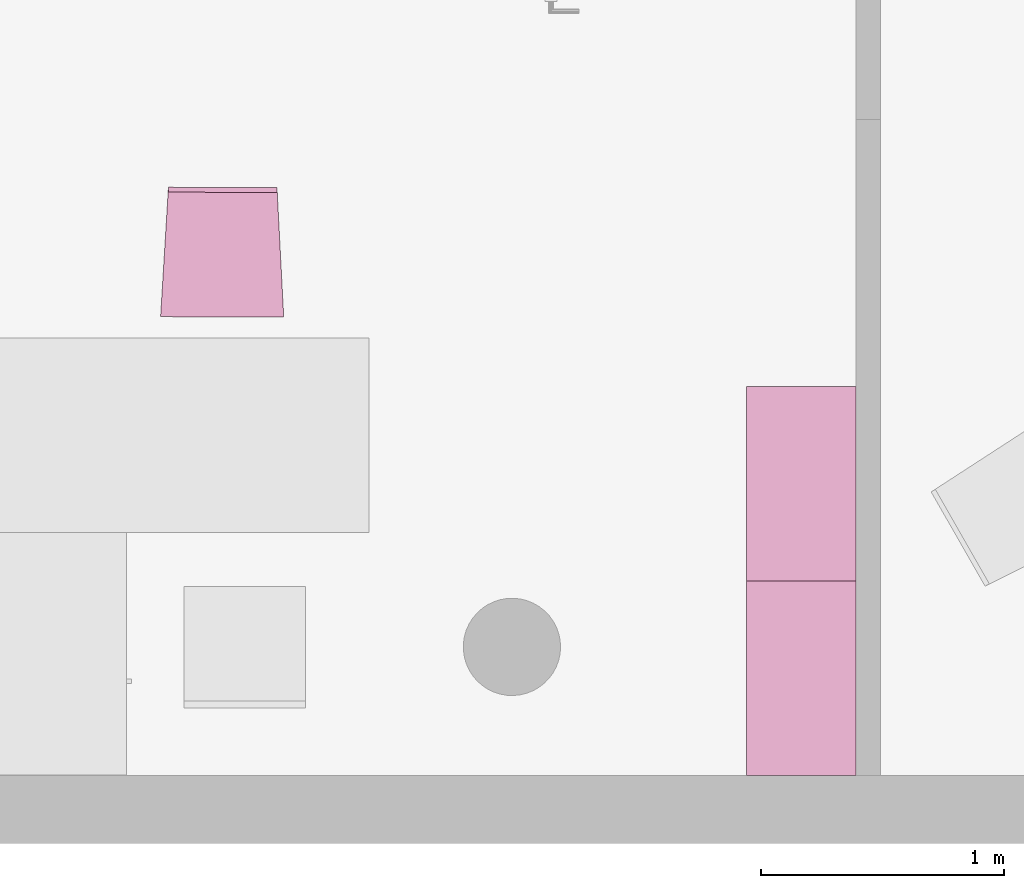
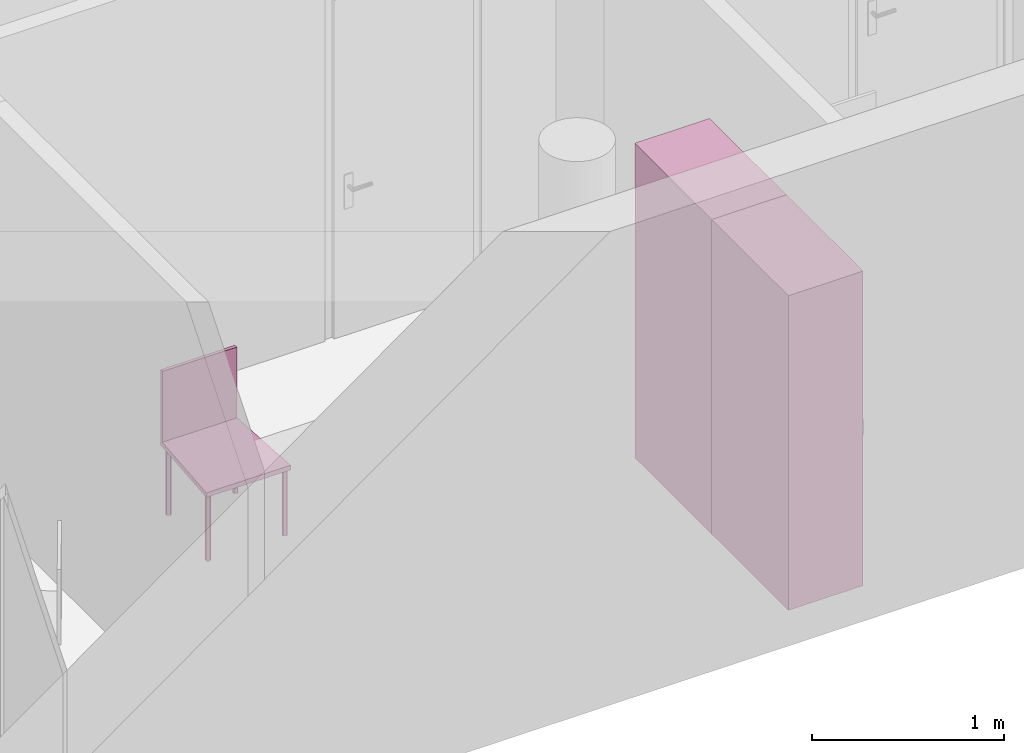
"""IFC4 building model written with IfcOpenShell, lengths in metres."""

import ifcopenshell
import ifcopenshell.guid

model = None  # the IFC model being written
_history = None  # IfcOwnerHistory: only IFC2X3 demands one
_inside = {}  # id of a spatial element -> (the spatial element, [elements in it])
_under = {}  # id of a project, library or spatial element -> (it, [spatial elements below it])
_declared = {}  # id of a project -> (the project, [libraries it declares])
_typed = {}  # id of a type object -> (the type object, [elements of that type])
_made_of = {}  # id of a material, layer set ... -> (it, [elements and type objects made of it])


def new_model(schema):
    """Start an empty IFC model of exactly this schema.

    Asked for "IFC4X3", IfcOpenShell would pick the latest addendum, in which some entities
    have other attributes; the version numbers below select the first issue.
    IFC2X3 requires an IfcOwnerHistory on every rooted entity: one is made here for all.
    """
    global model, _history
    if schema == "IFC4X3":
        model = ifcopenshell.file(schema_version=(4, 3, 0, 0))
    else:
        model = ifcopenshell.file(schema=schema)
    _inside.clear()
    _under.clear()
    _declared.clear()
    _typed.clear()
    _made_of.clear()
    _history = None
    if model.schema == "IFC2X3":
        org = make("IfcOrganization", Name="unknown")
        user = make(
            "IfcPersonAndOrganization",
            ThePerson=make("IfcPerson", FamilyName="unknown"),
            TheOrganization=org,
        )
        app = make(
            "IfcApplication",
            ApplicationDeveloper=org,
            Version="unknown",
            ApplicationFullName="unknown",
            ApplicationIdentifier="unknown",
        )
        _history = make(
            "IfcOwnerHistory",
            OwningUser=user,
            OwningApplication=app,
            ChangeAction="ADDED",
            CreationDate=0,
        )
    return model


def make(cls, **values):
    """One entity of the class cls with the attributes given. An attribute that is None is left unset."""
    return model.create_entity(
        cls, **{name: value for name, value in values.items() if value is not None}
    )


def entity(cls, *values):
    """Any entity or typed value of the class cls, its attributes in the order of the schema. None: left unset."""
    e = model.create_entity(cls)
    for i, value in enumerate(values):
        if value is not None:
            e[i] = value
    return e


def rooted(cls, **values):
    """An entity with a GlobalId (a new one), such as an element, a storey or a relation."""
    return make(cls, GlobalId=ifcopenshell.guid.new(), OwnerHistory=_history, **values)


def si_unit(unit_type, name, prefix=None):
    """IfcSIUnit, for example si_unit("LENGTHUNIT", "METRE", prefix="MILLI")."""
    return make("IfcSIUnit", UnitType=unit_type, Prefix=prefix, Name=name)


def converted_unit(unit_type, name, factor, base, dimensions=None, offset=None):
    """IfcConversionBasedUnit, such as the inch: factor (a typed value) times the base unit."""
    return make(
        "IfcConversionBasedUnit"
        if offset is None
        else "IfcConversionBasedUnitWithOffset",
        ConversionOffset=offset,
        Dimensions=None
        if dimensions is None
        else entity("IfcDimensionalExponents", *dimensions),
        UnitType=unit_type,
        Name=name,
        ConversionFactor=make(
            "IfcMeasureWithUnit", ValueComponent=factor, UnitComponent=base
        ),
    )


def derived_unit(unit_type, elements):
    """IfcDerivedUnit: a product of units, each with its exponent."""
    return make(
        "IfcDerivedUnit",
        Elements=[
            make("IfcDerivedUnitElement", Unit=unit, Exponent=power)
            for unit, power in elements
        ],
        UnitType=unit_type,
    )


def assignment(units):
    """IfcUnitAssignment: the units of a project."""
    return None if units is None else make("IfcUnitAssignment", Units=units)


def point(xyz):
    """IfcCartesianPoint."""
    return None if xyz is None else make("IfcCartesianPoint", Coordinates=xyz)


def direction(xyz):
    """IfcDirection."""
    return None if xyz is None else make("IfcDirection", DirectionRatios=xyz)


def frame(location, z_axis=None, x_axis=None):
    """IfcAxis2Placement3D, a coordinate frame: its origin and axes. An axis left out is left unset."""
    return make(
        "IfcAxis2Placement3D",
        Location=point(location),
        Axis=direction(z_axis),
        RefDirection=direction(x_axis),
    )


def origin():
    """The frame at (0, 0, 0) with its axes left unset."""
    return frame((0.0, 0.0, 0.0))


def place(relative_to, where):
    """IfcLocalPlacement: puts the frame where relative to a parent placement (None: the world)."""
    return make(
        "IfcLocalPlacement", PlacementRelTo=relative_to, RelativePlacement=where
    )


def context(
    kind, dimensions, precision=None, world=None, true_north=None, identifier=None
):
    """IfcGeometricRepresentationContext, for example the 3D "Model" context."""
    return make(
        "IfcGeometricRepresentationContext",
        ContextIdentifier=identifier,
        ContextType=kind,
        CoordinateSpaceDimension=dimensions,
        Precision=precision,
        WorldCoordinateSystem=world,
        TrueNorth=true_north,
    )


def subcontext(parent, identifier, kind, view, scale=None):
    """IfcGeometricRepresentationSubContext, for example "Body" below "Model"."""
    return make(
        "IfcGeometricRepresentationSubContext",
        ContextIdentifier=identifier,
        ContextType=kind,
        ParentContext=parent,
        TargetScale=scale,
        TargetView=view,
    )


def project(units=None, contexts=None):
    """IfcProject with its units and contexts."""
    return rooted(
        "IfcProject",
        Name="project",
        RepresentationContexts=contexts,
        UnitsInContext=assignment(units),
    )


def spatial(cls, under=None, at=None, **own):
    """A site, building, storey or space (cls), placed at a placement, below another one or the project."""
    s = rooted(cls, ObjectPlacement=at, **own)
    if under is not None:
        _under.setdefault(under.id(), (under, []))[1].append(s)
    return s


def faces_of(points, faces, orient=None, outer=None):
    """IfcFace entities. A face is a list of loops; a loop is a list of indices into points, from 0.

    orient and outer hold one flag for each loop. By default every Orientation is true, the
    first loop of a face is its IfcFaceOuterBound and the others are IfcFaceBound.
    """
    made = []
    for i, loops in enumerate(faces):
        bounds = []
        for j, loop in enumerate(loops):
            is_outer = j == 0 if outer is None else outer[i][j]
            bounds.append(
                make(
                    "IfcFaceOuterBound" if is_outer else "IfcFaceBound",
                    Bound=make("IfcPolyLoop", Polygon=[points[k] for k in loop]),
                    Orientation=True if orient is None else orient[i][j],
                )
            )
        made.append(make("IfcFace", Bounds=bounds))
    return made


def faceted_brep(points, faces, orient=None, outer=None, voids=None):
    """IfcFacetedBrep: a solid bounded by flat faces; with voids (closed shells), ...WithVoids."""
    shared = [point(p) for p in points]
    hull = make("IfcClosedShell", CfsFaces=faces_of(shared, faces, orient, outer))
    if voids is None:
        return make("IfcFacetedBrep", Outer=hull)
    return make(
        "IfcFacetedBrepWithVoids",
        Outer=hull,
        Voids=[
            make(cls, CfsFaces=faces_of(shared, fs, o, b)) for cls, fs, o, b in voids
        ],
    )


def shape(context_of_items, identifier, shape_type, items):
    """IfcShapeRepresentation: the items that make up one representation, for example the "Body"."""
    return make(
        "IfcShapeRepresentation",
        ContextOfItems=context_of_items,
        RepresentationIdentifier=identifier,
        RepresentationType=shape_type,
        Items=items,
    )


def made_of(thing, what):
    """Note that an element or type object is made of a material, layer set ...; save() writes the relation."""
    if what is not None:
        _made_of.setdefault(what.id(), (what, []))[1].append(thing)
    return thing


def element(
    cls,
    number,
    at=None,
    inside=None,
    cuts=None,
    type_object=None,
    material=None,
    context=None,
    identifier="Body",
    shape_type=None,
    held_by="IfcProductDefinitionShape",
    body=None,
    shapes=None,
    **own,
):
    """One element of the class cls, such as IfcWall. Its Tag is "e" and its number.

    at: its placement. inside: the storey or other place that contains it. cuts: it is an
    opening in that element (IfcRelVoidsElement). A single representation is given by context,
    identifier, shape_type and body (its items); several are given by shapes. held_by: the class
    of the entity that holds the representations. save() writes the other relations.
    """
    e = rooted(cls, Tag="e%d" % number, ObjectPlacement=at, **own)
    if body is not None:
        shapes = [shape(context, identifier, shape_type, body)]
    if shapes is not None:
        e.Representation = make(held_by, Representations=shapes)
    if inside is not None:
        _inside.setdefault(inside.id(), (inside, []))[1].append(e)
    if cuts is not None:
        rooted(
            "IfcRelVoidsElement", RelatingBuildingElement=cuts, RelatedOpeningElement=e
        )
    if type_object is not None:
        _typed.setdefault(type_object.id(), (type_object, []))[1].append(e)
    return made_of(e, material)


def aggregate(whole, parts):
    """IfcRelAggregates: a whole, such as a stair, and the parts it consists of."""
    return rooted("IfcRelAggregates", RelatingObject=whole, RelatedObjects=parts)


def save(model, path):
    """Write the relations noted so far, then the file.

    IfcRelAggregates (storeys below a building ...), IfcRelContainedInSpatialStructure (elements
    in a storey), IfcRelDefinesByType, IfcRelAssociatesMaterial and IfcRelDeclares: one each for
    every whole, place, type object, material and project.
    """
    for whole, parts in _under.values():
        aggregate(whole, parts)
    for where, things in _inside.values():
        rooted(
            "IfcRelContainedInSpatialStructure",
            RelatedElements=things,
            RelatingStructure=where,
        )
    for kind, things in _typed.values():
        rooted("IfcRelDefinesByType", RelatedObjects=things, RelatingType=kind)
    for what, things in _made_of.values():
        rooted("IfcRelAssociatesMaterial", RelatedObjects=things, RelatingMaterial=what)
    for by, libraries in _declared.values():
        rooted("IfcRelDeclares", RelatingContext=by, RelatedDefinitions=libraries)
    model.write(path)


model = new_model("IFC4")

# Units and contexts
model_context = context("Model", 3, precision=1e-05, world=origin())
body_context = subcontext(model_context, "Body", "Model", "MODEL_VIEW")
ifc_project = project(units=[si_unit("LENGTHUNIT", "METRE"), si_unit("AREAUNIT", "SQUARE_METRE"), si_unit("VOLUMEUNIT", "CUBIC_METRE"), si_unit("MASSUNIT", "GRAM", prefix="KILO"), converted_unit("PLANEANGLEUNIT", "DEGREE", entity("IfcPlaneAngleMeasure", 0.0174532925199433), si_unit("PLANEANGLEUNIT", "RADIAN"), dimensions=[0, 0, 0, 0, 0, 0, 0]), derived_unit("THERMALTRANSMITTANCEUNIT", [(si_unit("POWERUNIT", "WATT"), 1), (si_unit("THERMODYNAMICTEMPERATUREUNIT", "KELVIN"), -1), (si_unit("LENGTHUNIT", "METRE"), -2)]), derived_unit("VOLUMETRICFLOWRATEUNIT", [(si_unit("LENGTHUNIT", "METRE"), 3), (converted_unit("TIMEUNIT", "hour", entity("IfcTimeMeasure", 3600.0), si_unit("TIMEUNIT", "SECOND"), dimensions=[0, 0, 1, 0, 0, 0, 0]), -1), (si_unit("LENGTHUNIT", "METRE"), -1)])], contexts=[model_context])

# Building, storeys
building_placement = place(None, origin())
building = spatial("IfcBuilding", under=ifc_project, at=building_placement, Name="HABITATGE PLURIFAMILIAR", CompositionType="ELEMENT")
storey_1_placement = place(building_placement, frame((0.0, 0.0, 9.26)))
storey_1 = spatial("IfcBuildingStorey", under=building, at=storey_1_placement, Name="PLANTA SEGONA", CompositionType="ELEMENT", Elevation=9.26)
storey_2_placement = place(storey_1_placement, frame((0.0, 0.0, 6.25)))
storey_2 = spatial("IfcBuildingStorey", under=storey_1, at=storey_2_placement, Name="NOU", CompositionType="PARTIAL")

# Furniture
furniture_1_placement = place(storey_2_placement, frame((411.699312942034, 13.1206121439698, -6.3499999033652)))
element("IfcFurniture", 1, at=furniture_1_placement, inside=storey_2, Name="Armai 80x45_P2", context=body_context, shape_type="Brep", body=[
    faceted_brep([(0.430000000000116, 0.78, 1.98), (0.430000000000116, 0.78, 0.02), (0.450000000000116, 0.78, 0.02), (0.450000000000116, 0.78, 1.98), (0.430000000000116, 0.0, 0.02), (0.450000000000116, 0.0, 0.02), (0.430000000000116, 0.0, 1.98), (0.450000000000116, 0.0, 1.98)], [[[0, 1, 2, 3]], [[1, 4, 5, 2]], [[4, 6, 7, 5]], [[6, 0, 3, 7]], [[0, 6, 4, 1]], [[3, 2, 5, 7]]], orient=[[False], [False], [False], [False], [False], [False]]),
    faceted_brep([(0.450000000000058, 0.8, 1.98), (0.450000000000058, 0.8, 0.02), (0.450000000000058, 0.78, 0.02), (0.450000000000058, 0.78, 1.98), (0.0, 0.8, 0.02), (0.0, 0.78, 0.02), (0.0, 0.8, 1.98), (0.0, 0.78, 1.98)], [[[0, 1, 2, 3]], [[1, 4, 5, 2]], [[4, 6, 7, 5]], [[6, 0, 3, 7]], [[0, 6, 4, 1]], [[3, 2, 5, 7]]], orient=[[False], [False], [False], [False], [False], [False]]),
    faceted_brep([(0.450000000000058, 0.0, 0.02), (0.450000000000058, 0.8, 0.02), (0.450000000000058, 0.8, 0.0), (0.450000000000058, 0.0, 0.0), (0.0, 0.8, 0.02), (0.0, 0.8, 0.0), (0.0, 0.0, 0.02), (0.0, 0.0, 0.0)], [[[0, 1, 2, 3]], [[1, 4, 5, 2]], [[4, 6, 7, 5]], [[6, 0, 3, 7]], [[0, 6, 4, 1]], [[3, 2, 5, 7]]], orient=[[False], [False], [False], [False], [False], [False]]),
    faceted_brep([(0.450000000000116, 0.0, 2.0), (0.450000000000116, 0.8, 2.0), (0.450000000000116, 0.8, 1.98), (0.450000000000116, 0.0, 1.98), (0.0, 0.8, 2.0), (0.0, 0.8, 1.98), (0.0, 0.0, 2.0), (0.0, 0.0, 1.98)], [[[0, 1, 2, 3]], [[1, 4, 5, 2]], [[4, 6, 7, 5]], [[6, 0, 3, 7]], [[0, 6, 4, 1]], [[3, 2, 5, 7]]], orient=[[False], [False], [False], [False], [False], [False]]),
    faceted_brep([(0.450000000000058, 0.02, 1.98), (0.450000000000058, 0.02, 0.02), (0.450000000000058, 0.0, 0.02), (0.450000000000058, 0.0, 1.98), (0.0, 0.02, 0.02), (0.0, 0.0, 0.02), (0.0, 0.02, 1.98), (0.0, 0.0, 1.98)], [[[0, 1, 2, 3]], [[1, 4, 5, 2]], [[4, 6, 7, 5]], [[6, 0, 3, 7]], [[0, 6, 4, 1]], [[3, 2, 5, 7]]], orient=[[False], [False], [False], [False], [False], [False]]),
    faceted_brep([(0.0, 0.78, 1.98), (0.0, 0.78, 0.02), (0.0200000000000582, 0.78, 0.02), (0.0200000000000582, 0.78, 1.98), (0.0, 0.02, 0.02), (0.0200000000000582, 0.02, 0.02), (0.0, 0.02, 1.98), (0.0200000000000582, 0.02, 1.98)], [[[0, 1, 2, 3]], [[1, 4, 5, 2]], [[4, 6, 7, 5]], [[6, 0, 3, 7]], [[0, 6, 4, 1]], [[3, 2, 5, 7]]], orient=[[False], [False], [False], [False], [False], [False]]),
    faceted_brep([(0.430000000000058, 0.0, 1.98), (0.430000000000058, 0.0, 0.02), (0.450000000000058, 0.0, 0.02), (0.450000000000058, 0.0, 1.98), (0.430000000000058, 0.02, 0.02), (0.450000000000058, 0.02, 0.02), (0.430000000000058, 0.02, 1.98), (0.450000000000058, 0.02, 1.98)], [[[0, 1, 2, 3]], [[1, 4, 5, 2]], [[4, 6, 7, 5]], [[6, 0, 3, 7]], [[0, 6, 4, 1]], [[3, 2, 5, 7]]], orient=[[False], [False], [False], [False], [False], [False]]),
    faceted_brep([(0.450000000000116, 0.07, 1.01806481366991), (0.450000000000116, 0.07, 0.918064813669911), (0.480000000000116, 0.07, 0.918064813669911), (0.480000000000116, 0.07, 1.01806481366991), (0.450000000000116, 0.05, 0.918064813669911), (0.480000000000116, 0.05, 0.918064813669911), (0.450000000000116, 0.05, 1.01806481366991), (0.480000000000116, 0.05, 1.01806481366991)], [[[0, 1, 2, 3]], [[1, 4, 5, 2]], [[4, 6, 7, 5]], [[6, 0, 3, 7]], [[0, 6, 4, 1]], [[3, 2, 5, 7]]], orient=[[False], [False], [False], [False], [False], [False]]),
])
furniture_2_placement = place(storey_2_placement, frame((411.699312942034, 13.9206811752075, -6.3499999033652)))
element("IfcFurniture", 2, at=furniture_2_placement, inside=storey_2, Name="Armai 80x45_P2", context=body_context, shape_type="Brep", body=[
    faceted_brep([(0.430000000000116, 0.78, 1.98), (0.430000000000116, 0.78, 0.02), (0.450000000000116, 0.78, 0.02), (0.450000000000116, 0.78, 1.98), (0.430000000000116, 0.0, 0.02), (0.450000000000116, 0.0, 0.02), (0.430000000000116, 0.0, 1.98), (0.450000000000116, 0.0, 1.98)], [[[0, 1, 2, 3]], [[1, 4, 5, 2]], [[4, 6, 7, 5]], [[6, 0, 3, 7]], [[0, 6, 4, 1]], [[3, 2, 5, 7]]], orient=[[False], [False], [False], [False], [False], [False]]),
    faceted_brep([(0.450000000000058, 0.8, 1.98), (0.450000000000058, 0.8, 0.02), (0.450000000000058, 0.78, 0.02), (0.450000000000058, 0.78, 1.98), (0.0, 0.8, 0.02), (0.0, 0.78, 0.02), (0.0, 0.8, 1.98), (0.0, 0.78, 1.98)], [[[0, 1, 2, 3]], [[1, 4, 5, 2]], [[4, 6, 7, 5]], [[6, 0, 3, 7]], [[0, 6, 4, 1]], [[3, 2, 5, 7]]], orient=[[False], [False], [False], [False], [False], [False]]),
    faceted_brep([(0.450000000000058, 0.0, 0.02), (0.450000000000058, 0.8, 0.02), (0.450000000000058, 0.8, 0.0), (0.450000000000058, 0.0, 0.0), (0.0, 0.8, 0.02), (0.0, 0.8, 0.0), (0.0, 0.0, 0.02), (0.0, 0.0, 0.0)], [[[0, 1, 2, 3]], [[1, 4, 5, 2]], [[4, 6, 7, 5]], [[6, 0, 3, 7]], [[0, 6, 4, 1]], [[3, 2, 5, 7]]], orient=[[False], [False], [False], [False], [False], [False]]),
    faceted_brep([(0.450000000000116, 0.0, 2.0), (0.450000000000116, 0.8, 2.0), (0.450000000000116, 0.8, 1.98), (0.450000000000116, 0.0, 1.98), (0.0, 0.8, 2.0), (0.0, 0.8, 1.98), (0.0, 0.0, 2.0), (0.0, 0.0, 1.98)], [[[0, 1, 2, 3]], [[1, 4, 5, 2]], [[4, 6, 7, 5]], [[6, 0, 3, 7]], [[0, 6, 4, 1]], [[3, 2, 5, 7]]], orient=[[False], [False], [False], [False], [False], [False]]),
    faceted_brep([(0.450000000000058, 0.02, 1.98), (0.450000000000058, 0.02, 0.02), (0.450000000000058, 0.0, 0.02), (0.450000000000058, 0.0, 1.98), (0.0, 0.02, 0.02), (0.0, 0.0, 0.02), (0.0, 0.02, 1.98), (0.0, 0.0, 1.98)], [[[0, 1, 2, 3]], [[1, 4, 5, 2]], [[4, 6, 7, 5]], [[6, 0, 3, 7]], [[0, 6, 4, 1]], [[3, 2, 5, 7]]], orient=[[False], [False], [False], [False], [False], [False]]),
    faceted_brep([(0.0, 0.78, 1.98), (0.0, 0.78, 0.02), (0.0200000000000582, 0.78, 0.02), (0.0200000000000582, 0.78, 1.98), (0.0, 0.02, 0.02), (0.0200000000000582, 0.02, 0.02), (0.0, 0.02, 1.98), (0.0200000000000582, 0.02, 1.98)], [[[0, 1, 2, 3]], [[1, 4, 5, 2]], [[4, 6, 7, 5]], [[6, 0, 3, 7]], [[0, 6, 4, 1]], [[3, 2, 5, 7]]], orient=[[False], [False], [False], [False], [False], [False]]),
    faceted_brep([(0.430000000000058, 0.0, 1.98), (0.430000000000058, 0.0, 0.02), (0.450000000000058, 0.0, 0.02), (0.450000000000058, 0.0, 1.98), (0.430000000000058, 0.02, 0.02), (0.450000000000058, 0.02, 0.02), (0.430000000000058, 0.02, 1.98), (0.450000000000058, 0.02, 1.98)], [[[0, 1, 2, 3]], [[1, 4, 5, 2]], [[4, 6, 7, 5]], [[6, 0, 3, 7]], [[0, 6, 4, 1]], [[3, 2, 5, 7]]], orient=[[False], [False], [False], [False], [False], [False]]),
    faceted_brep([(0.450000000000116, 0.07, 1.01806481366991), (0.450000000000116, 0.07, 0.918064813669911), (0.480000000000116, 0.07, 0.918064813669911), (0.480000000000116, 0.07, 1.01806481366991), (0.450000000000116, 0.05, 0.918064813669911), (0.480000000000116, 0.05, 0.918064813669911), (0.450000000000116, 0.05, 1.01806481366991), (0.480000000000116, 0.05, 1.01806481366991)], [[[0, 1, 2, 3]], [[1, 4, 5, 2]], [[4, 6, 7, 5]], [[6, 0, 3, 7]], [[0, 6, 4, 1]], [[3, 2, 5, 7]]], orient=[[False], [False], [False], [False], [False], [False]]),
])
furniture_3_placement = place(storey_2_placement, frame((409.288697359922, 15.0053169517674, -6.3514820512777)))
element("IfcFurniture", 3, at=furniture_3_placement, inside=storey_2, Name="Cadira confident_P2", context=body_context, shape_type="Brep", body=[
    faceted_brep([(0.0392724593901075, 0.0271272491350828, 0.0), (0.0390567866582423, 0.0297221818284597, 0.0), (0.038393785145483, 0.0322402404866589, 0.0), (0.0373035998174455, 0.0346049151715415, 0.0), (0.0358193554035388, 0.0367443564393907, 0.0), (0.0339861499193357, 0.0385935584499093, 0.0), (0.0318596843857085, 0.0400963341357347, 0.0), (0.0295045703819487, 0.0412070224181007, 0.0), (0.0269923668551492, 0.0418918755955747, 0.0), (0.024399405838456, 0.0421300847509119, 0.0), (0.0218044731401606, 0.041914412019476, 0.0), (0.0192864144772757, 0.04125141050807, 0.0), (0.0169217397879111, 0.040161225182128, 0.0), (0.0147822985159, 0.0386769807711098, 0.0), (0.0129330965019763, 0.0368437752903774, 0.0), (0.0114303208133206, 0.0347173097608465, 0.0), (0.0103196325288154, 0.0323621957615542, 0.0), (0.00963477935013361, 0.0298499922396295, 0.0), (0.00939657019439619, 0.0272570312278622, 0.0), (0.00961224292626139, 0.0246620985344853, 0.0), (0.0102752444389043, 0.0221440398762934, 0.0), (0.0113654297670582, 0.0197793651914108, 0.0), (0.0128496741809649, 0.017639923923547, 0.0), (0.014682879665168, 0.0157907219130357, 0.0), (0.0168093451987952, 0.0142879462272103, 0.0), (0.019164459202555, 0.0131772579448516, 0.0), (0.0216766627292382, 0.0124924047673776, 0.0), (0.0242696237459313, 0.0122541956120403, 0.0), (0.0268645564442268, 0.0124698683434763, 0.0), (0.0293826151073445, 0.0131328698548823, 0.0), (0.0317472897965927, 0.014223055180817, 0.0), (0.0338867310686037, 0.0157072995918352, 0.0), (0.0357359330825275, 0.0175405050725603, 0.0), (0.0372387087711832, 0.0196669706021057, 0.0), (0.0383493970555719, 0.0220220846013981, 0.0), (0.0390342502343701, 0.0245342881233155, 0.0), (0.0392724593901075, 0.0271272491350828, 0.448281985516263), (0.0390342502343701, 0.0245342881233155, 0.448281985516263), (0.0383493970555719, 0.0220220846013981, 0.448281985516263), (0.0372387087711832, 0.0196669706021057, 0.448281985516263), (0.0357359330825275, 0.0175405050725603, 0.448281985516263), (0.0338867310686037, 0.0157072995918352, 0.448281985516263), (0.0317472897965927, 0.014223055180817, 0.448281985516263), (0.0293826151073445, 0.0131328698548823, 0.448281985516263), (0.0268645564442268, 0.0124698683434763, 0.448281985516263), (0.0242696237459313, 0.0122541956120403, 0.448281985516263), (0.0216766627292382, 0.0124924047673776, 0.448281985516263), (0.019164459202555, 0.0131772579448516, 0.448281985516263), (0.0168093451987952, 0.0142879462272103, 0.448281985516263), (0.014682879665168, 0.0157907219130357, 0.448281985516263), (0.0128496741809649, 0.017639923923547, 0.448281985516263), (0.0113654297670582, 0.0197793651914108, 0.448281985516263), (0.0102752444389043, 0.0221440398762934, 0.448281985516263), (0.00961224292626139, 0.0246620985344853, 0.448281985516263), (0.00939657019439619, 0.0272570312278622, 0.448281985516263), (0.00963477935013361, 0.0298499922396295, 0.448281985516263), (0.0103196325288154, 0.0323621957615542, 0.448281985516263), (0.0114303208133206, 0.0347173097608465, 0.448281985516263), (0.0129330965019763, 0.0368437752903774, 0.448281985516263), (0.0147822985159, 0.0386769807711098, 0.448281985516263), (0.0169217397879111, 0.040161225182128, 0.448281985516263), (0.0192864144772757, 0.04125141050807, 0.448281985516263), (0.0218044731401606, 0.041914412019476, 0.448281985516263), (0.024399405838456, 0.0421300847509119, 0.448281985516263), (0.0269923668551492, 0.0418918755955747, 0.448281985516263), (0.0295045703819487, 0.0412070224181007, 0.448281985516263), (0.0318596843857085, 0.0400963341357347, 0.448281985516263), (0.0339861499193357, 0.0385935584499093, 0.448281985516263), (0.0358193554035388, 0.0367443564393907, 0.448281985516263), (0.0373035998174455, 0.0346049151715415, 0.448281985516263), (0.038393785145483, 0.0322402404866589, 0.448281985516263), (0.0390567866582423, 0.0297221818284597, 0.448281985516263)], [[[0, 1, 2, 3, 4, 5, 6, 7, 8, 9, 10, 11, 12, 13, 14, 15, 16, 17, 18, 19, 20, 21, 22, 23, 24, 25, 26, 27, 28, 29, 30, 31, 32, 33, 34, 35]], [[36, 37, 38, 39, 40, 41, 42, 43, 44, 45, 46, 47, 48, 49, 50, 51, 52, 53, 54, 55, 56, 57, 58, 59, 60, 61, 62, 63, 64, 65, 66, 67, 68, 69, 70, 71]], [[1, 0, 36, 71]], [[2, 1, 71, 70]], [[3, 2, 70, 69]], [[4, 3, 69, 68]], [[5, 4, 68, 67]], [[6, 5, 67, 66]], [[7, 6, 66, 65]], [[8, 7, 65, 64]], [[9, 8, 64, 63]], [[10, 9, 63, 62]], [[11, 10, 62, 61]], [[12, 11, 61, 60]], [[13, 12, 60, 59]], [[14, 13, 59, 58]], [[15, 14, 58, 57]], [[16, 15, 57, 56]], [[17, 16, 56, 55]], [[18, 17, 55, 54]], [[19, 18, 54, 53]], [[20, 19, 53, 52]], [[21, 20, 52, 51]], [[22, 21, 51, 50]], [[23, 22, 50, 49]], [[24, 23, 49, 48]], [[25, 24, 48, 47]], [[26, 25, 47, 46]], [[27, 26, 46, 45]], [[28, 27, 45, 44]], [[29, 28, 44, 43]], [[30, 29, 43, 42]], [[31, 30, 42, 41]], [[32, 31, 41, 40]], [[33, 32, 40, 39]], [[34, 33, 39, 38]], [[35, 34, 38, 37]], [[0, 35, 37, 36]]], orient=[[False], [False], [False], [False], [False], [False], [False], [False], [False], [False], [False], [False], [False], [False], [False], [False], [False], [False], [False], [False], [False], [False], [False], [False], [False], [False], [False], [False], [False], [False], [False], [False], [False], [False], [False], [False], [False], [False]]),
    faceted_brep([(0.0689188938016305, 0.489409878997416, 0.0), (0.0687032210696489, 0.492004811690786, 0.0), (0.0680402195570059, 0.494522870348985, 0.0), (0.0669500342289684, 0.496887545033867, 0.0), (0.0654657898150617, 0.499026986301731, 0.0), (0.0636325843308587, 0.50087618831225, 0.0), (0.0615061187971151, 0.502378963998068, 0.0), (0.0591510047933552, 0.503489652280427, 0.0), (0.0566388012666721, 0.504174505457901, 0.0), (0.0540458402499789, 0.504412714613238, 0.0), (0.0514509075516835, 0.504197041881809, 0.0), (0.0489328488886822, 0.503534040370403, 0.0), (0.0465681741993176, 0.502443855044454, 0.0), (0.044428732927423, 0.500959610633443, 0.0), (0.0425795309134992, 0.499126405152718, 0.0), (0.0410767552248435, 0.496999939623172, 0.0), (0.0399660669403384, 0.49464482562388, 0.0), (0.0392812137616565, 0.492132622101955, 0.0), (0.0390430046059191, 0.489539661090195, 0.0), (0.0392586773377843, 0.486944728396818, 0.0), (0.0399216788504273, 0.484426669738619, 0.0), (0.0410118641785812, 0.482061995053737, 0.0), (0.0424961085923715, 0.479922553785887, 0.0), (0.0443293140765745, 0.478073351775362, 0.0), (0.0464557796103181, 0.476570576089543, 0.0), (0.0488108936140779, 0.475459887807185, 0.0), (0.0513230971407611, 0.474775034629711, 0.0), (0.0539160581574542, 0.474536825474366, 0.0), (0.0565109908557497, 0.474752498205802, 0.0), (0.059029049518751, 0.475415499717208, 0.0), (0.0613937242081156, 0.476505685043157, 0.0), (0.0635331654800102, 0.477989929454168, 0.0), (0.065382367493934, 0.479823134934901, 0.0), (0.0668851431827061, 0.481949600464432, 0.0), (0.0679958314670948, 0.484304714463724, 0.0), (0.0686806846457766, 0.486816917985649, 0.0), (0.0689188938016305, 0.489409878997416, 0.448281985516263), (0.0686806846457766, 0.486816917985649, 0.448281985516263), (0.0679958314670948, 0.484304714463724, 0.448281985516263), (0.0668851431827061, 0.481949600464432, 0.448281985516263), (0.065382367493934, 0.479823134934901, 0.448281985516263), (0.0635331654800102, 0.477989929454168, 0.448281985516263), (0.0613937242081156, 0.476505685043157, 0.448281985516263), (0.059029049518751, 0.475415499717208, 0.448281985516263), (0.0565109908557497, 0.474752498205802, 0.448281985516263), (0.0539160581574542, 0.474536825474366, 0.448281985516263), (0.0513230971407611, 0.474775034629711, 0.448281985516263), (0.0488108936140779, 0.475459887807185, 0.448281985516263), (0.0464557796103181, 0.476570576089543, 0.448281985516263), (0.0443293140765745, 0.478073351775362, 0.448281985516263), (0.0424961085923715, 0.479922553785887, 0.448281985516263), (0.0410118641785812, 0.482061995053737, 0.448281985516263), (0.0399216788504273, 0.484426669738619, 0.448281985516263), (0.0392586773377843, 0.486944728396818, 0.448281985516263), (0.0390430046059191, 0.489539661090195, 0.448281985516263), (0.0392812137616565, 0.492132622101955, 0.448281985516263), (0.0399660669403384, 0.49464482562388, 0.448281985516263), (0.0410767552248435, 0.496999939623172, 0.448281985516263), (0.0425795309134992, 0.499126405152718, 0.448281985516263), (0.044428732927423, 0.500959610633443, 0.448281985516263), (0.0465681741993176, 0.502443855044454, 0.448281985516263), (0.0489328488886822, 0.503534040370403, 0.448281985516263), (0.0514509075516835, 0.504197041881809, 0.448281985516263), (0.0540458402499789, 0.504412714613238, 0.448281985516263), (0.0566388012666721, 0.504174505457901, 0.448281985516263), (0.0591510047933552, 0.503489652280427, 0.448281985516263), (0.0615061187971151, 0.502378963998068, 0.448281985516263), (0.0636325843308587, 0.50087618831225, 0.448281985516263), (0.0654657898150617, 0.499026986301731, 0.448281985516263), (0.0669500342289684, 0.496887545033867, 0.448281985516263), (0.0680402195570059, 0.494522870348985, 0.448281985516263), (0.0687032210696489, 0.492004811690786, 0.448281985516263)], [[[0, 1, 2, 3, 4, 5, 6, 7, 8, 9, 10, 11, 12, 13, 14, 15, 16, 17, 18, 19, 20, 21, 22, 23, 24, 25, 26, 27, 28, 29, 30, 31, 32, 33, 34, 35]], [[36, 37, 38, 39, 40, 41, 42, 43, 44, 45, 46, 47, 48, 49, 50, 51, 52, 53, 54, 55, 56, 57, 58, 59, 60, 61, 62, 63, 64, 65, 66, 67, 68, 69, 70, 71]], [[1, 0, 36, 71]], [[2, 1, 71, 70]], [[3, 2, 70, 69]], [[4, 3, 69, 68]], [[5, 4, 68, 67]], [[6, 5, 67, 66]], [[7, 6, 66, 65]], [[8, 7, 65, 64]], [[9, 8, 64, 63]], [[10, 9, 63, 62]], [[11, 10, 62, 61]], [[12, 11, 61, 60]], [[13, 12, 60, 59]], [[14, 13, 59, 58]], [[15, 14, 58, 57]], [[16, 15, 57, 56]], [[17, 16, 56, 55]], [[18, 17, 55, 54]], [[19, 18, 54, 53]], [[20, 19, 53, 52]], [[21, 20, 52, 51]], [[22, 21, 51, 50]], [[23, 22, 50, 49]], [[24, 23, 49, 48]], [[25, 24, 48, 47]], [[26, 25, 47, 46]], [[27, 26, 46, 45]], [[28, 27, 45, 44]], [[29, 28, 44, 43]], [[30, 29, 43, 42]], [[31, 30, 42, 41]], [[32, 31, 41, 40]], [[33, 32, 40, 39]], [[34, 33, 39, 38]], [[35, 34, 38, 37]], [[0, 35, 37, 36]]], orient=[[False], [False], [False], [False], [False], [False], [False], [False], [False], [False], [False], [False], [False], [False], [False], [False], [False], [False], [False], [False], [False], [False], [False], [False], [False], [False], [False], [False], [False], [False], [False], [False], [False], [False], [False], [False], [False], [False]]),
    faceted_brep([(0.499268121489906, 0.0251290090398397, 0.0), (0.499052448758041, 0.0277239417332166, 0.0), (0.498389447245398, 0.0302420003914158, 0.0), (0.497299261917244, 0.0326066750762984, 0.0), (0.495815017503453, 0.0347461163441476, 0.0), (0.49398181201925, 0.0365953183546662, 0.0), (0.491855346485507, 0.0380980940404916, 0.0), (0.489500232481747, 0.0392087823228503, 0.0), (0.486988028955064, 0.0398936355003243, 0.0), (0.484395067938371, 0.0401318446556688, 0.0), (0.481800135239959, 0.0399161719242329, 0.0), (0.479282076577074, 0.0392531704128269, 0.0), (0.476917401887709, 0.0381629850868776, 0.0), (0.474777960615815, 0.0366787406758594, 0.0), (0.472928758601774, 0.0348455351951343, 0.0), (0.471425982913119, 0.0327190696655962, 0.0), (0.470315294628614, 0.0303639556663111, 0.0), (0.469630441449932, 0.0278517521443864, 0.0), (0.469392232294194, 0.0252587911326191, 0.0), (0.46960790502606, 0.0226638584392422, 0.0), (0.470270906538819, 0.0201457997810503, 0.0), (0.471361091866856, 0.0177811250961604, 0.0), (0.472845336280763, 0.0156416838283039, 0.0), (0.474678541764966, 0.0137924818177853, 0.0), (0.476805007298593, 0.01228970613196, 0.0), (0.479160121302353, 0.0111790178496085, 0.0), (0.481672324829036, 0.0104941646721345, 0.0), (0.484265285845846, 0.0102559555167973, 0.0), (0.486860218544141, 0.0104716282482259, 0.0), (0.489378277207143, 0.0111346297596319, 0.0), (0.491742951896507, 0.0122248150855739, 0.0), (0.493882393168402, 0.0137090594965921, 0.0), (0.495731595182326, 0.0155422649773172, 0.0), (0.497234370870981, 0.0176687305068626, 0.0), (0.498345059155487, 0.020023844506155, 0.0), (0.499029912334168, 0.0225360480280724, 0.0), (0.499268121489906, 0.0251290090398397, 0.448281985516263), (0.499029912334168, 0.0225360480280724, 0.448281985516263), (0.498345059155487, 0.020023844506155, 0.448281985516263), (0.497234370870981, 0.0176687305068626, 0.448281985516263), (0.495731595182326, 0.0155422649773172, 0.448281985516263), (0.493882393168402, 0.0137090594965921, 0.448281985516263), (0.491742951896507, 0.0122248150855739, 0.448281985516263), (0.489378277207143, 0.0111346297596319, 0.448281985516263), (0.486860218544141, 0.0104716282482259, 0.448281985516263), (0.484265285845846, 0.0102559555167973, 0.448281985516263), (0.481672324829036, 0.0104941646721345, 0.448281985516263), (0.479160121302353, 0.0111790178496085, 0.448281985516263), (0.476805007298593, 0.01228970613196, 0.448281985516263), (0.474678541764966, 0.0137924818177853, 0.448281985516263), (0.472845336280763, 0.0156416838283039, 0.448281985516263), (0.471361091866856, 0.0177811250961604, 0.448281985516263), (0.470270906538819, 0.0201457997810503, 0.448281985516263), (0.46960790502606, 0.0226638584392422, 0.448281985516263), (0.469392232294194, 0.0252587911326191, 0.448281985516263), (0.469630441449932, 0.0278517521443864, 0.448281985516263), (0.470315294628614, 0.0303639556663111, 0.448281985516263), (0.471425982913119, 0.0327190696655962, 0.448281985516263), (0.472928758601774, 0.0348455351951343, 0.448281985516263), (0.474777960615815, 0.0366787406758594, 0.448281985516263), (0.476917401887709, 0.0381629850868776, 0.448281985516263), (0.479282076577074, 0.0392531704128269, 0.448281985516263), (0.481800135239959, 0.0399161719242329, 0.448281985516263), (0.484395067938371, 0.0401318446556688, 0.448281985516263), (0.486988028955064, 0.0398936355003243, 0.448281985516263), (0.489500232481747, 0.0392087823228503, 0.448281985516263), (0.491855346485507, 0.0380980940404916, 0.448281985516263), (0.49398181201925, 0.0365953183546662, 0.448281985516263), (0.495815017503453, 0.0347461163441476, 0.448281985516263), (0.497299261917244, 0.0326066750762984, 0.448281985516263), (0.498389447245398, 0.0302420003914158, 0.448281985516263), (0.499052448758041, 0.0277239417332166, 0.448281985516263)], [[[0, 1, 2, 3, 4, 5, 6, 7, 8, 9, 10, 11, 12, 13, 14, 15, 16, 17, 18, 19, 20, 21, 22, 23, 24, 25, 26, 27, 28, 29, 30, 31, 32, 33, 34, 35]], [[36, 37, 38, 39, 40, 41, 42, 43, 44, 45, 46, 47, 48, 49, 50, 51, 52, 53, 54, 55, 56, 57, 58, 59, 60, 61, 62, 63, 64, 65, 66, 67, 68, 69, 70, 71]], [[1, 0, 36, 71]], [[2, 1, 71, 70]], [[3, 2, 70, 69]], [[4, 3, 69, 68]], [[5, 4, 68, 67]], [[6, 5, 67, 66]], [[7, 6, 66, 65]], [[8, 7, 65, 64]], [[9, 8, 64, 63]], [[10, 9, 63, 62]], [[11, 10, 62, 61]], [[12, 11, 61, 60]], [[13, 12, 60, 59]], [[14, 13, 59, 58]], [[15, 14, 58, 57]], [[16, 15, 57, 56]], [[17, 16, 56, 55]], [[18, 17, 55, 54]], [[19, 18, 54, 53]], [[20, 19, 53, 52]], [[21, 20, 52, 51]], [[22, 21, 51, 50]], [[23, 22, 50, 49]], [[24, 23, 49, 48]], [[25, 24, 48, 47]], [[26, 25, 47, 46]], [[27, 26, 46, 45]], [[28, 27, 45, 44]], [[29, 28, 44, 43]], [[30, 29, 43, 42]], [[31, 30, 42, 41]], [[32, 31, 41, 40]], [[33, 32, 40, 39]], [[34, 33, 39, 38]], [[35, 34, 38, 37]], [[0, 35, 37, 36]]], orient=[[False], [False], [False], [False], [False], [False], [False], [False], [False], [False], [False], [False], [False], [False], [False], [False], [False], [False], [False], [False], [False], [False], [False], [False], [False], [False], [False], [False], [False], [False], [False], [False], [False], [False], [False], [False], [False], [False]]),
    faceted_brep([(0.468915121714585, 0.487672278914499, 0.0), (0.468699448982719, 0.490267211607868, 0.0), (0.468036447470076, 0.492785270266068, 0.0), (0.466946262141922, 0.49514994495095, 0.0), (0.465462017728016, 0.497289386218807, 0.0), (0.463628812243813, 0.499138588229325, 0.0), (0.461502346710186, 0.500641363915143, 0.0), (0.459147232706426, 0.501752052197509, 0.0), (0.456635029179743, 0.502436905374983, 0.0), (0.454042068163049, 0.502675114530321, 0.0), (0.451447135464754, 0.502459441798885, 0.0), (0.448929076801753, 0.501796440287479, 0.0), (0.446564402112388, 0.500706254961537, 0.0), (0.444424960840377, 0.499222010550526, 0.0), (0.442575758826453, 0.497388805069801, 0.0), (0.441072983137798, 0.495262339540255, 0.0), (0.439962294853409, 0.492907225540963, 0.0), (0.439277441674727, 0.490395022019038, 0.0), (0.439039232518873, 0.487802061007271, 0.0), (0.439254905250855, 0.485207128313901, 0.0), (0.439917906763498, 0.482689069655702, 0.0), (0.441008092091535, 0.480324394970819, 0.0), (0.442492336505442, 0.47818495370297, 0.0), (0.444325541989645, 0.476335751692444, 0.0), (0.446452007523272, 0.474832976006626, 0.0), (0.448807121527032, 0.47372228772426, 0.0), (0.451319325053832, 0.473037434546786, 0.0), (0.453912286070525, 0.472799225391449, 0.0), (0.45650721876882, 0.473014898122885, 0.0), (0.459025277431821, 0.473677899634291, 0.0), (0.46138995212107, 0.474768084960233, 0.0), (0.463529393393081, 0.476252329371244, 0.0), (0.465378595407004, 0.478085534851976, 0.0), (0.46688137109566, 0.480212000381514, 0.0), (0.467992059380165, 0.482567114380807, 0.0), (0.468676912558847, 0.485079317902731, 0.0), (0.468915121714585, 0.487672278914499, 0.448281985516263), (0.468676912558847, 0.485079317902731, 0.448281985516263), (0.467992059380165, 0.482567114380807, 0.448281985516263), (0.46688137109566, 0.480212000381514, 0.448281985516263), (0.465378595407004, 0.478085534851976, 0.448281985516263), (0.463529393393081, 0.476252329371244, 0.448281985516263), (0.46138995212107, 0.474768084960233, 0.448281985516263), (0.459025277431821, 0.473677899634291, 0.448281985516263), (0.45650721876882, 0.473014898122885, 0.448281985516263), (0.453912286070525, 0.472799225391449, 0.448281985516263), (0.451319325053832, 0.473037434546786, 0.448281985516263), (0.448807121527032, 0.47372228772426, 0.448281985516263), (0.446452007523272, 0.474832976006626, 0.448281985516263), (0.444325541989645, 0.476335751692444, 0.448281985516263), (0.442492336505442, 0.47818495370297, 0.448281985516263), (0.441008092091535, 0.480324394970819, 0.448281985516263), (0.439917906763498, 0.482689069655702, 0.448281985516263), (0.439254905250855, 0.485207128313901, 0.448281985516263), (0.439039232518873, 0.487802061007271, 0.448281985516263), (0.439277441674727, 0.490395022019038, 0.448281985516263), (0.439962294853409, 0.492907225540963, 0.448281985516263), (0.441072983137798, 0.495262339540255, 0.448281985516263), (0.442575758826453, 0.497388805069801, 0.448281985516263), (0.444424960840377, 0.499222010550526, 0.448281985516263), (0.446564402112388, 0.500706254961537, 0.448281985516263), (0.448929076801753, 0.501796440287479, 0.448281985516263), (0.451447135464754, 0.502459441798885, 0.448281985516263), (0.454042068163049, 0.502675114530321, 0.448281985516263), (0.456635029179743, 0.502436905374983, 0.448281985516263), (0.459147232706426, 0.501752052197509, 0.448281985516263), (0.461502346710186, 0.500641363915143, 0.448281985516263), (0.463628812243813, 0.499138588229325, 0.448281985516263), (0.465462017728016, 0.497289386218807, 0.448281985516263), (0.466946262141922, 0.49514994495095, 0.448281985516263), (0.468036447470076, 0.492785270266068, 0.448281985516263), (0.468699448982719, 0.490267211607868, 0.448281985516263)], [[[0, 1, 2, 3, 4, 5, 6, 7, 8, 9, 10, 11, 12, 13, 14, 15, 16, 17, 18, 19, 20, 21, 22, 23, 24, 25, 26, 27, 28, 29, 30, 31, 32, 33, 34, 35]], [[36, 37, 38, 39, 40, 41, 42, 43, 44, 45, 46, 47, 48, 49, 50, 51, 52, 53, 54, 55, 56, 57, 58, 59, 60, 61, 62, 63, 64, 65, 66, 67, 68, 69, 70, 71]], [[1, 0, 36, 71]], [[2, 1, 71, 70]], [[3, 2, 70, 69]], [[4, 3, 69, 68]], [[5, 4, 68, 67]], [[6, 5, 67, 66]], [[7, 6, 66, 65]], [[8, 7, 65, 64]], [[9, 8, 64, 63]], [[10, 9, 63, 62]], [[11, 10, 62, 61]], [[12, 11, 61, 60]], [[13, 12, 60, 59]], [[14, 13, 59, 58]], [[15, 14, 58, 57]], [[16, 15, 57, 56]], [[17, 16, 56, 55]], [[18, 17, 55, 54]], [[19, 18, 54, 53]], [[20, 19, 53, 52]], [[21, 20, 52, 51]], [[22, 21, 51, 50]], [[23, 22, 50, 49]], [[24, 23, 49, 48]], [[25, 24, 48, 47]], [[26, 25, 47, 46]], [[27, 26, 46, 45]], [[28, 27, 45, 44]], [[29, 28, 44, 43]], [[30, 29, 43, 42]], [[31, 30, 42, 41]], [[32, 31, 41, 40]], [[33, 32, 40, 39]], [[34, 33, 39, 38]], [[35, 34, 38, 37]], [[0, 35, 37, 36]]], orient=[[False], [False], [False], [False], [False], [False], [False], [False], [False], [False], [False], [False], [False], [False], [False], [False], [False], [False], [False], [False], [False], [False], [False], [False], [False], [False], [False], [False], [False], [False], [False], [False], [False], [False], [False], [False], [False], [False]]),
    faceted_brep([(0.478823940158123, 0.532733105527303, 0.418281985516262), (0.0323133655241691, 0.534672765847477, 0.418281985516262), (0.0, 0.0022003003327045, 0.418281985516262), (0.506510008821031, 0.0, 0.418281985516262), (0.506510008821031, 0.0, 0.448281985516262), (0.0, 0.0022003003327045, 0.448281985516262), (0.0323133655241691, 0.534672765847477, 0.448281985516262), (0.478823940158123, 0.532733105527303, 0.448281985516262)], [[[0, 1, 2, 3]], [[4, 5, 6, 7]], [[3, 4, 7, 0]], [[2, 5, 4, 3]], [[1, 6, 5, 2]], [[0, 7, 6, 1]]], orient=[[False], [False], [False], [False], [False], [False]]),
    faceted_brep([(0.478737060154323, 0.512733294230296, 0.448281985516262), (0.478823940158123, 0.532733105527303, 0.448281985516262), (0.0323133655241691, 0.534672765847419, 0.448281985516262), (0.032226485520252, 0.514672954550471, 0.448281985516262), (0.032226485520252, 0.514672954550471, 0.898281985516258), (0.0323133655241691, 0.534672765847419, 0.898281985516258), (0.478823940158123, 0.532733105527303, 0.898281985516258), (0.478737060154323, 0.512733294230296, 0.898281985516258)], [[[0, 1, 2, 3]], [[4, 5, 6, 7]], [[3, 4, 7, 0]], [[2, 5, 4, 3]], [[1, 6, 5, 2]], [[0, 7, 6, 1]]], orient=[[False], [False], [False], [False], [False], [False]]),
])

save(model, "model.ifc")
